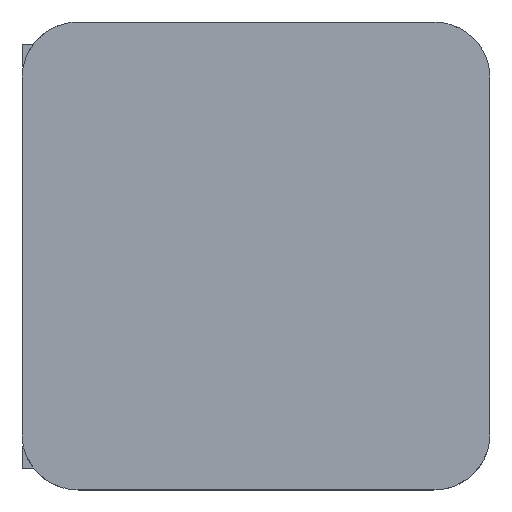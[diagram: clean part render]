
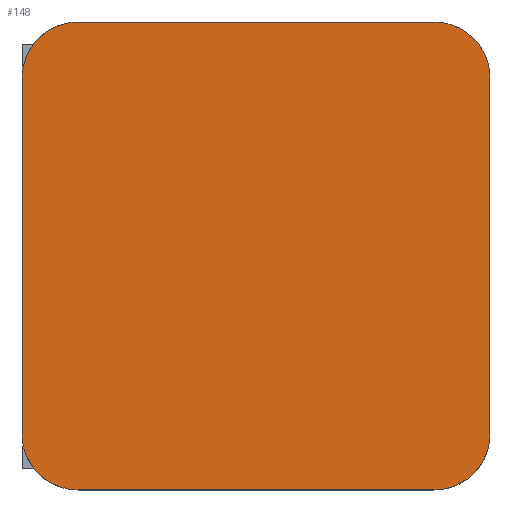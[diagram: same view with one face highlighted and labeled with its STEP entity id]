
A CAD part, top view. The second image highlights one B-rep face of the part: STEP entity #148.
In plain terms, the highlighted planar face has unit normal (0, 0, 1).
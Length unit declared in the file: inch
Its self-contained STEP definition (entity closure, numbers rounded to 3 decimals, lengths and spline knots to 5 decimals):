
#136=EDGE_CURVE('',#351,#352,#353,.T.);
#148=ADVANCED_FACE('',(#371),#372,.T.);
#156=EDGE_CURVE('',#383,#384,#385,.T.);
#166=EDGE_CURVE('',#400,#383,#401,.T.);
#174=EDGE_CURVE('',#335,#400,#413,.T.);
#186=EDGE_CURVE('',#430,#351,#431,.T.);
#228=EDGE_CURVE('',#352,#335,#492,.T.);
#280=EDGE_CURVE('',#564,#430,#565,.T.);
#300=EDGE_CURVE('',#384,#564,#591,.T.);
#335=VERTEX_POINT('',#618);
#351=VERTEX_POINT('',#644);
#352=VERTEX_POINT('',#645);
#353=B_SPLINE_CURVE_WITH_KNOTS('',3,(#646,#647,#648,#649),.UNSPECIFIED.,.F.,.F.,(4,4),(-1.0,-0.0),.UNSPECIFIED.);
#371=FACE_OUTER_BOUND('',#677,.T.);
#372=PLANE('',#678);
#383=VERTEX_POINT('',#692);
#384=VERTEX_POINT('',#693);
#385=B_SPLINE_CURVE_WITH_KNOTS('',3,(#694,#695,#696,#697),.UNSPECIFIED.,.F.,.F.,(4,4),(-1.0,-0.0),.UNSPECIFIED.);
#400=VERTEX_POINT('',#719);
#401=LINE('',#720,#721);
#413=B_SPLINE_CURVE_WITH_KNOTS('',3,(#738,#739,#740,#741),.UNSPECIFIED.,.F.,.F.,(4,4),(-1.0,-0.0),.UNSPECIFIED.);
#430=VERTEX_POINT('',#776);
#431=LINE('',#777,#778);
#492=LINE('',#864,#865);
#564=VERTEX_POINT('',#979);
#565=B_SPLINE_CURVE_WITH_KNOTS('',3,(#980,#981,#982,#983),.UNSPECIFIED.,.F.,.F.,(4,4),(-1.0,-0.0),.UNSPECIFIED.);
#591=LINE('',#1029,#1030);
#618=CARTESIAN_POINT('',(1.34001,2.12129,0.075));
#644=CARTESIAN_POINT('',(-0.0625,1.93004,0.075));
#645=CARTESIAN_POINT('',(0.12875,2.12129,0.075));
#646=CARTESIAN_POINT('',(-0.0625,1.93004,0.075));
#647=CARTESIAN_POINT('',(-0.0625,2.03567,0.075));
#648=CARTESIAN_POINT('',(0.02312,2.12129,0.075));
#649=CARTESIAN_POINT('',(0.12875,2.12129,0.075));
#677=EDGE_LOOP('',(#1093,#1094,#1095,#1096,#1097,#1098,#1099,#1100));
#678=AXIS2_PLACEMENT_3D('',#1101,#1102,#1103);
#692=CARTESIAN_POINT('',(1.53125,0.71878,0.075));
#693=CARTESIAN_POINT('',(1.34001,0.52753,0.075));
#694=CARTESIAN_POINT('',(1.53125,0.71878,0.075));
#695=CARTESIAN_POINT('',(1.53125,0.61317,0.075));
#696=CARTESIAN_POINT('',(1.44562,0.52753,0.075));
#697=CARTESIAN_POINT('',(1.34001,0.52753,0.075));
#719=CARTESIAN_POINT('',(1.53125,1.93004,0.075));
#720=CARTESIAN_POINT('',(1.53125,0.71878,0.075));
#721=VECTOR('',#1149,1.0);
#738=CARTESIAN_POINT('',(1.34001,2.12129,0.075));
#739=CARTESIAN_POINT('',(1.44562,2.12129,0.075));
#740=CARTESIAN_POINT('',(1.53125,2.03567,0.075));
#741=CARTESIAN_POINT('',(1.53125,1.93004,0.075));
#776=CARTESIAN_POINT('',(-0.0625,0.71878,0.075));
#777=CARTESIAN_POINT('',(-0.0625,1.93004,0.075));
#778=VECTOR('',#1176,1.0);
#864=CARTESIAN_POINT('',(1.34001,2.12129,0.075));
#865=VECTOR('',#1271,1.0);
#979=CARTESIAN_POINT('',(0.12875,0.52753,0.075));
#980=CARTESIAN_POINT('',(0.12875,0.52753,0.075));
#981=CARTESIAN_POINT('',(0.02312,0.52753,0.075));
#982=CARTESIAN_POINT('',(-0.0625,0.61317,0.075));
#983=CARTESIAN_POINT('',(-0.0625,0.71878,0.075));
#1029=CARTESIAN_POINT('',(0.12875,0.52753,0.075));
#1030=VECTOR('',#1399,1.0);
#1093=ORIENTED_EDGE('',*,*,#166,.F.);
#1094=ORIENTED_EDGE('',*,*,#174,.F.);
#1095=ORIENTED_EDGE('',*,*,#228,.F.);
#1096=ORIENTED_EDGE('',*,*,#136,.F.);
#1097=ORIENTED_EDGE('',*,*,#186,.F.);
#1098=ORIENTED_EDGE('',*,*,#280,.F.);
#1099=ORIENTED_EDGE('',*,*,#300,.F.);
#1100=ORIENTED_EDGE('',*,*,#156,.F.);
#1101=CARTESIAN_POINT('',(0.73438,1.32441,0.075));
#1102=DIRECTION('',(0.0,0.0,1.0));
#1103=DIRECTION('',(1.0,0.0,0.0));
#1149=DIRECTION('',(-0.0,-1.0,-0.0));
#1176=DIRECTION('',(0.0,1.0,0.0));
#1271=DIRECTION('',(1.0,0.0,0.0));
#1399=DIRECTION('',(-1.0,-0.0,-0.0));
